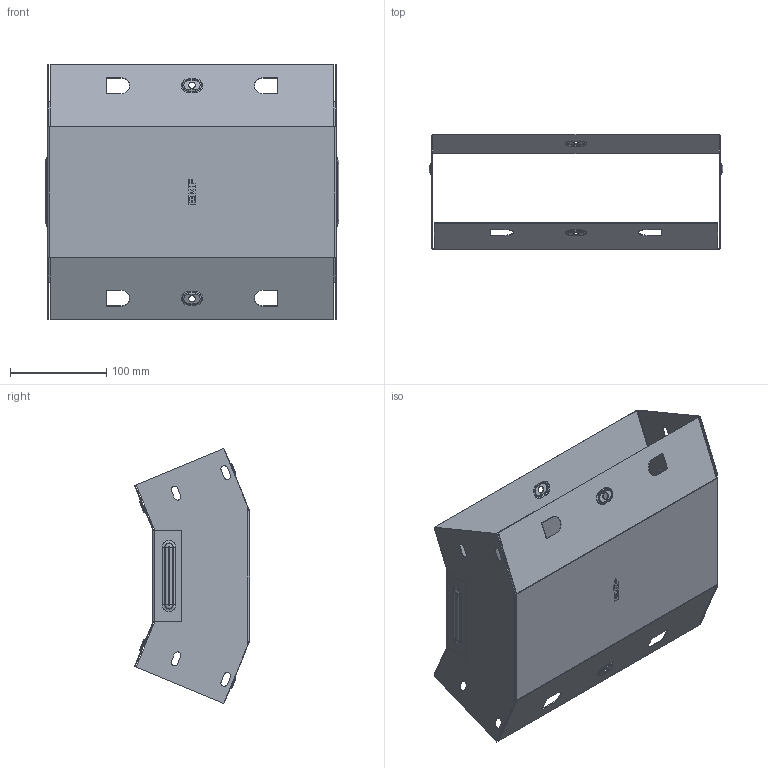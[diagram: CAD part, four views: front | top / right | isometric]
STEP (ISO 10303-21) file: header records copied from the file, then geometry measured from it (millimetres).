
FILE_DESCRIPTION (( 'STEP AP214' ), '1' );
FILE_NAME ('vi45100300_捘.STEP', '2019-06-10T08:30:12', ( '砐錪賧瘔蠈錪 Windows' ), ( '' ), 'SwSTEP 2.0', 'SolidWorks 2018', '' );
FILE_SCHEMA (( 'AUTOMOTIVE_DESIGN' ));
Length unit declared in the file: millimetre
Products named in the file (1): vi45100300_捘
Bounding box: 305.6 x 119.93 x 265.55 mm (x, y, z)
Volume: 152487.9 mm3; surface area: 384221.2 mm2
Topology: 2 solids, 2 shells, 452 faces, 1164 edges, 744 vertices
Faces by surface type: plane 242, cylinder 128, torus 64, bspline 18
Entity records: 14672 total; most frequent: CARTESIAN_POINT 3380, DIRECTION 2350, ORIENTED_EDGE 2328, EDGE_CURVE 1164, AXIS2_PLACEMENT_3D 787, LINE 776, VECTOR 776, VERTEX_POINT 744
